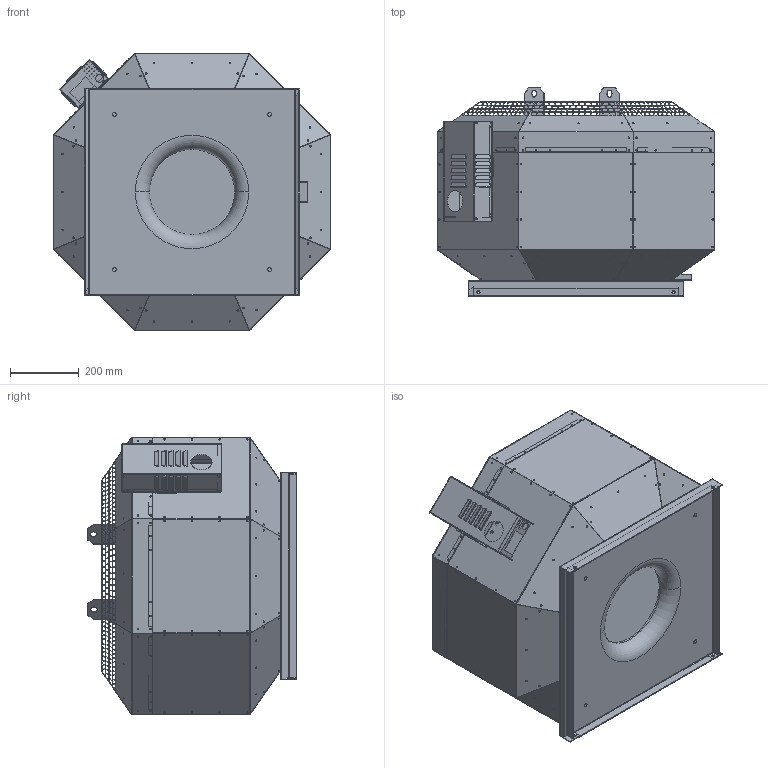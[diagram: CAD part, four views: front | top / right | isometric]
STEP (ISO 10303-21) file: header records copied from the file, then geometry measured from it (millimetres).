
FILE_DESCRIPTION (( 'STEP AP203' ), '1' );
FILE_NAME ('145178-01_DVNI400EC30_step.step', '2018-08-07T12:46:36', ( '' ), ( '' ), 'SwSTEP 2.0', 'SolidWorks 2017', '' );
FILE_SCHEMA (( 'CONFIG_CONTROL_DESIGN' ));
Length unit declared in the file: millimetre
Products named in the file (1): 145178-01_DVNI400EC30_step
Bounding box: 804 x 604.01 x 804 mm (x, y, z)
Surface area: 4340214.8 mm2 (no closed solid volume)
Topology: 0 solids, 42 shells, 2743 faces, 13062 edges, 9825 vertices
Faces by surface type: plane 2312, cylinder 371, bspline 58, torus 2
Entity records: 147688 total; most frequent: CARTESIAN_POINT 43059, DIRECTION 19513, ORIENTED_EDGE 18492, EDGE_CURVE 13062, VECTOR 11261, LINE 11261, VERTEX_POINT 9825, EDGE_LOOP 4847
